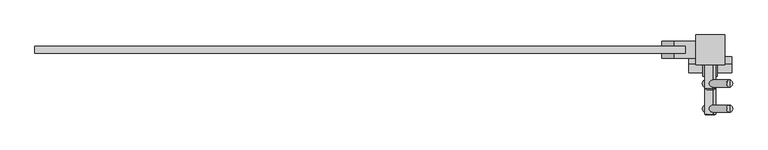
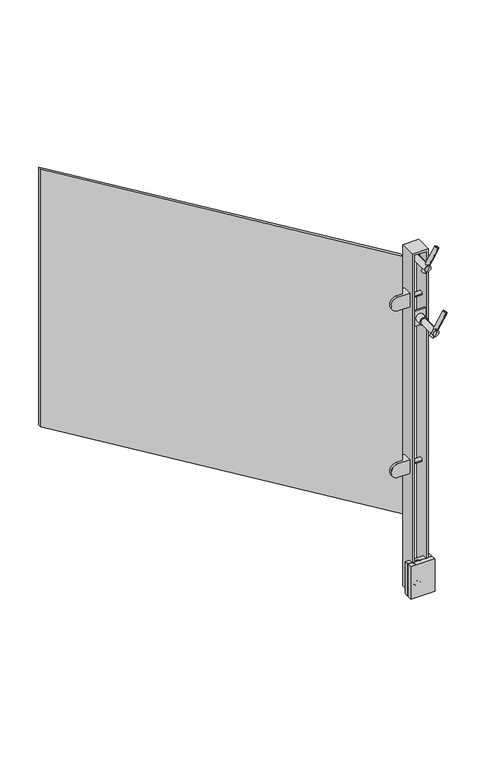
"""IFC4 building model written with IfcOpenShell, lengths in millimetres: proxy geometry, LIVERS_ICN - Glass Panel : LIVERS_ICN - Glass Panel."""

import ifcopenshell
import ifcopenshell.guid

model = None  # the IFC model being written
_history = None  # IfcOwnerHistory: only IFC2X3 demands one
_inside = {}  # id of a spatial element -> (the spatial element, [elements in it])
_under = {}  # id of a project, library or spatial element -> (it, [spatial elements below it])
_declared = {}  # id of a project -> (the project, [libraries it declares])
_typed = {}  # id of a type object -> (the type object, [elements of that type])
_made_of = {}  # id of a material, layer set ... -> (it, [elements and type objects made of it])


def new_model(schema):
    """Start an empty IFC model of exactly this schema.

    Asked for "IFC4X3", IfcOpenShell would pick the latest addendum, in which some entities
    have other attributes; the version numbers below select the first issue.
    IFC2X3 requires an IfcOwnerHistory on every rooted entity: one is made here for all.
    """
    global model, _history
    if schema == "IFC4X3":
        model = ifcopenshell.file(schema_version=(4, 3, 0, 0))
    else:
        model = ifcopenshell.file(schema=schema)
    _inside.clear()
    _under.clear()
    _declared.clear()
    _typed.clear()
    _made_of.clear()
    _history = None
    if model.schema == "IFC2X3":
        org = make("IfcOrganization", Name="unknown")
        user = make(
            "IfcPersonAndOrganization",
            ThePerson=make("IfcPerson", FamilyName="unknown"),
            TheOrganization=org,
        )
        app = make(
            "IfcApplication",
            ApplicationDeveloper=org,
            Version="unknown",
            ApplicationFullName="unknown",
            ApplicationIdentifier="unknown",
        )
        _history = make(
            "IfcOwnerHistory",
            OwningUser=user,
            OwningApplication=app,
            ChangeAction="ADDED",
            CreationDate=0,
        )
    return model


def make(cls, **values):
    """One entity of the class cls with the attributes given. An attribute that is None is left unset."""
    return model.create_entity(
        cls, **{name: value for name, value in values.items() if value is not None}
    )


def rooted(cls, **values):
    """An entity with a GlobalId (a new one), such as an element, a storey or a relation."""
    return make(cls, GlobalId=ifcopenshell.guid.new(), OwnerHistory=_history, **values)


def si_unit(unit_type, name, prefix=None):
    """IfcSIUnit, for example si_unit("LENGTHUNIT", "METRE", prefix="MILLI")."""
    return make("IfcSIUnit", UnitType=unit_type, Prefix=prefix, Name=name)


def assignment(units):
    """IfcUnitAssignment: the units of a project."""
    return None if units is None else make("IfcUnitAssignment", Units=units)


def point(xyz):
    """IfcCartesianPoint."""
    return None if xyz is None else make("IfcCartesianPoint", Coordinates=xyz)


def direction(xyz):
    """IfcDirection."""
    return None if xyz is None else make("IfcDirection", DirectionRatios=xyz)


def frame(location, z_axis=None, x_axis=None):
    """IfcAxis2Placement3D, a coordinate frame: its origin and axes. An axis left out is left unset."""
    return make(
        "IfcAxis2Placement3D",
        Location=point(location),
        Axis=direction(z_axis),
        RefDirection=direction(x_axis),
    )


def origin():
    """The frame at (0, 0, 0) with its axes left unset."""
    return frame((0.0, 0.0, 0.0))


def place(relative_to, where):
    """IfcLocalPlacement: puts the frame where relative to a parent placement (None: the world)."""
    return make(
        "IfcLocalPlacement", PlacementRelTo=relative_to, RelativePlacement=where
    )


def context(
    kind, dimensions, precision=None, world=None, true_north=None, identifier=None
):
    """IfcGeometricRepresentationContext, for example the 3D "Model" context."""
    return make(
        "IfcGeometricRepresentationContext",
        ContextIdentifier=identifier,
        ContextType=kind,
        CoordinateSpaceDimension=dimensions,
        Precision=precision,
        WorldCoordinateSystem=world,
        TrueNorth=true_north,
    )


def project(units=None, contexts=None):
    """IfcProject with its units and contexts."""
    return rooted(
        "IfcProject",
        Name="project",
        RepresentationContexts=contexts,
        UnitsInContext=assignment(units),
    )


def spatial(cls, under=None, at=None, **own):
    """A site, building, storey or space (cls), placed at a placement, below another one or the project."""
    s = rooted(cls, ObjectPlacement=at, **own)
    if under is not None:
        _under.setdefault(under.id(), (under, []))[1].append(s)
    return s


def polyline(points):
    """IfcPolyline through the points."""
    return make("IfcPolyline", Points=[point(p) for p in points])


def circle_curve(where, radius):
    """IfcCircle in the frame where."""
    return make("IfcCircle", Position=where, Radius=radius)


def ellipse_curve(where, semi_axis1, semi_axis2):
    """IfcEllipse in the frame where."""
    return make(
        "IfcEllipse", Position=where, SemiAxis1=semi_axis1, SemiAxis2=semi_axis2
    )


def trimmed(basis, trim1, trim2, sense, master):
    """IfcTrimmedCurve: the piece of a basis curve between two trims."""
    return make(
        "IfcTrimmedCurve",
        BasisCurve=basis,
        Trim1=trim1,
        Trim2=trim2,
        SenseAgreement=sense,
        MasterRepresentation=master,
    )


def outline(outer, holes=None, kind="AREA"):
    """IfcArbitraryClosedProfileDef: a profile drawn as a closed curve; with holes, ...WithVoids."""
    if holes is None:
        return make("IfcArbitraryClosedProfileDef", ProfileType=kind, OuterCurve=outer)
    return make(
        "IfcArbitraryProfileDefWithVoids",
        ProfileType=kind,
        OuterCurve=outer,
        InnerCurves=holes,
    )


def extrude(swept, where, along, depth):
    """IfcExtrudedAreaSolid: the profile swept, set in the frame where, extruded along a direction by depth."""
    return make(
        "IfcExtrudedAreaSolid",
        SweptArea=swept,
        Position=where,
        ExtrudedDirection=direction(along),
        Depth=depth,
    )


def faces_of(points, faces, orient=None, outer=None):
    """IfcFace entities. A face is a list of loops; a loop is a list of indices into points, from 0.

    orient and outer hold one flag for each loop. By default every Orientation is true, the
    first loop of a face is its IfcFaceOuterBound and the others are IfcFaceBound.
    """
    made = []
    for i, loops in enumerate(faces):
        bounds = []
        for j, loop in enumerate(loops):
            is_outer = j == 0 if outer is None else outer[i][j]
            bounds.append(
                make(
                    "IfcFaceOuterBound" if is_outer else "IfcFaceBound",
                    Bound=make("IfcPolyLoop", Polygon=[points[k] for k in loop]),
                    Orientation=True if orient is None else orient[i][j],
                )
            )
        made.append(make("IfcFace", Bounds=bounds))
    return made


def faceted_brep(points, faces, orient=None, outer=None, voids=None):
    """IfcFacetedBrep: a solid bounded by flat faces; with voids (closed shells), ...WithVoids."""
    shared = [point(p) for p in points]
    hull = make("IfcClosedShell", CfsFaces=faces_of(shared, faces, orient, outer))
    if voids is None:
        return make("IfcFacetedBrep", Outer=hull)
    return make(
        "IfcFacetedBrepWithVoids",
        Outer=hull,
        Voids=[
            make(cls, CfsFaces=faces_of(shared, fs, o, b)) for cls, fs, o, b in voids
        ],
    )


def shape(context_of_items, identifier, shape_type, items):
    """IfcShapeRepresentation: the items that make up one representation, for example the "Body"."""
    return make(
        "IfcShapeRepresentation",
        ContextOfItems=context_of_items,
        RepresentationIdentifier=identifier,
        RepresentationType=shape_type,
        Items=items,
    )


def source(mapping_origin, context_of_items, identifier, shape_type, items):
    """IfcRepresentationMap: a shape defined once, which mapped items show again and again."""
    return make(
        "IfcRepresentationMap",
        MappingOrigin=mapping_origin,
        MappedRepresentation=shape(context_of_items, identifier, shape_type, items),
    )


def transform(
    local_origin,
    x_axis=None,
    y_axis=None,
    z_axis=None,
    scale=None,
    scale2=None,
    scale3=None,
    uniform=True,
):
    """IfcCartesianTransformationOperator3D, or its non-uniform kind. x_axis, y_axis, z_axis: its Axis1, 2, 3."""
    if uniform:
        return make(
            "IfcCartesianTransformationOperator3D",
            Axis1=direction(x_axis),
            Axis2=direction(y_axis),
            LocalOrigin=point(local_origin),
            Scale=scale,
            Axis3=direction(z_axis),
        )
    return make(
        "IfcCartesianTransformationOperator3DnonUniform",
        Axis1=direction(x_axis),
        Axis2=direction(y_axis),
        LocalOrigin=point(local_origin),
        Scale=scale,
        Axis3=direction(z_axis),
        Scale2=scale2,
        Scale3=scale3,
    )


def mapped(mapping_source, mapping_target):
    """IfcMappedItem: shows the shape of a source again, moved by a transform."""
    return make(
        "IfcMappedItem", MappingSource=mapping_source, MappingTarget=mapping_target
    )


def made_of(thing, what):
    """Note that an element or type object is made of a material, layer set ...; save() writes the relation."""
    if what is not None:
        _made_of.setdefault(what.id(), (what, []))[1].append(thing)
    return thing


def element(
    cls,
    number,
    at=None,
    inside=None,
    cuts=None,
    type_object=None,
    material=None,
    context=None,
    identifier="Body",
    shape_type=None,
    held_by="IfcProductDefinitionShape",
    body=None,
    shapes=None,
    **own,
):
    """One element of the class cls, such as IfcWall. Its Tag is "e" and its number.

    at: its placement. inside: the storey or other place that contains it. cuts: it is an
    opening in that element (IfcRelVoidsElement). A single representation is given by context,
    identifier, shape_type and body (its items); several are given by shapes. held_by: the class
    of the entity that holds the representations. save() writes the other relations.
    """
    e = rooted(cls, Tag="e%d" % number, ObjectPlacement=at, **own)
    if body is not None:
        shapes = [shape(context, identifier, shape_type, body)]
    if shapes is not None:
        e.Representation = make(held_by, Representations=shapes)
    if inside is not None:
        _inside.setdefault(inside.id(), (inside, []))[1].append(e)
    if cuts is not None:
        rooted(
            "IfcRelVoidsElement", RelatingBuildingElement=cuts, RelatedOpeningElement=e
        )
    if type_object is not None:
        _typed.setdefault(type_object.id(), (type_object, []))[1].append(e)
    return made_of(e, material)


def aggregate(whole, parts):
    """IfcRelAggregates: a whole, such as a stair, and the parts it consists of."""
    return rooted("IfcRelAggregates", RelatingObject=whole, RelatedObjects=parts)


def save(model, path):
    """Write the relations noted so far, then the file.

    IfcRelAggregates (storeys below a building ...), IfcRelContainedInSpatialStructure (elements
    in a storey), IfcRelDefinesByType, IfcRelAssociatesMaterial and IfcRelDeclares: one each for
    every whole, place, type object, material and project.
    """
    for whole, parts in _under.values():
        aggregate(whole, parts)
    for where, things in _inside.values():
        rooted(
            "IfcRelContainedInSpatialStructure",
            RelatedElements=things,
            RelatingStructure=where,
        )
    for kind, things in _typed.values():
        rooted("IfcRelDefinesByType", RelatedObjects=things, RelatingType=kind)
    for what, things in _made_of.values():
        rooted("IfcRelAssociatesMaterial", RelatedObjects=things, RelatingMaterial=what)
    for by, libraries in _declared.values():
        rooted("IfcRelDeclares", RelatingContext=by, RelatedDefinitions=libraries)
    model.write(path)


def plane_surface(at):
    """IfcPlane: the flat surface through the origin of the frame at, square to its z axis."""
    return make("IfcPlane", Position=at)


def cylinder_surface(at, radius):
    """IfcCylindricalSurface: all points at the distance radius from the z axis of the frame at."""
    return make("IfcCylindricalSurface", Position=at, Radius=radius)


def revolved_surface(curve, axis_point, axis_direction):
    """IfcSurfaceOfRevolution: the curve turned about the line through axis_point along axis_direction."""
    return make(
        "IfcSurfaceOfRevolution",
        SweptCurve=make("IfcArbitraryOpenProfileDef", ProfileType="CURVE", Curve=curve),
        AxisPosition=make("IfcAxis1Placement", Location=point(axis_point), Axis=direction(axis_direction)),
    )


def advanced_brep(points, edges, surfaces, faces):
    """IfcAdvancedBrep: a solid bounded by faces that lie on surfaces and meet in shared edges.

    An edge is (start, end): straight between two places in points (the first is 0);
    or (start, end, curve); or (start, end, curve, False) where it runs against its curve.
    A face is (place in surfaces, loops), or (place, loops, False) where it looks against
    its surface's normal. A loop lists edges by number (the first is 1), with a minus sign
    where the edge is run from its end to its start. The first loop is the outer one.
    """
    corners = [point(p) for p in points]
    vertices = [make("IfcVertexPoint", VertexGeometry=c) for c in corners]
    made = []
    for start, end, *more in edges:
        made.append(
            make(
                "IfcEdgeCurve",
                EdgeStart=vertices[start],
                EdgeEnd=vertices[end],
                EdgeGeometry=more[0] if more else make("IfcPolyline", Points=[corners[start], corners[end]]),
                SameSense=more[1] if len(more) > 1 else True,
            )
        )
    hull = []
    for where, loops, *sense in faces:
        bounds = []
        for j, loop in enumerate(loops):
            ring = [make("IfcOrientedEdge", EdgeElement=made[abs(k) - 1], Orientation=k > 0) for k in loop]
            bounds.append(
                make(
                    "IfcFaceOuterBound" if j == 0 else "IfcFaceBound",
                    Bound=make("IfcEdgeLoop", EdgeList=ring),
                    Orientation=True,
                )
            )
        hull.append(make("IfcAdvancedFace", Bounds=bounds, FaceSurface=surfaces[where], SameSense=sense[0] if sense else True))
    return make("IfcAdvancedBrep", Outer=make("IfcClosedShell", CfsFaces=hull))


def building_element_proxy_05a415d2(model_context):
    return source(origin(), model_context, "Body", "SolidModel", [
        advanced_brep(
        [(1225.9299747, 60.3249609, 615.1231165), (1219.2, 60.3249609, 604.3529057), (1212.4700253, 60.3249609, 593.5826949), (1225.9299747, 38.0999609, 615.1231165), (1212.4700253, 38.0999609, 593.5826949), (1219.2, 38.0999609, 604.3529057)],
        [
            (0, 1),
            (1, 2),
            (2, 0, circle_curve(frame((1219.2, 60.3249609, 604.3529057), z_axis=(0.0, 1.0, 0.0), x_axis=(-0.5299192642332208, 0.0, -0.8480480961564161)), 12.7)),
            (0, 2, circle_curve(frame((1219.2, 60.3249609, 604.3529057), z_axis=(0.0, 1.0, 0.0), x_axis=(-0.5299192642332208, 0.0, -0.8480480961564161)), 12.7)),
            (3, 0),
            (2, 4),
            (4, 3, circle_curve(frame((1219.2, 38.0999609, 604.3529057), z_axis=(0.0, 1.0, 0.0), x_axis=(-0.5299192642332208, 0.0, -0.8480480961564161)), 12.7)),
            (3, 4, circle_curve(frame((1219.2, 38.0999609, 604.3529057), z_axis=(0.0, 1.0, 0.0), x_axis=(-0.5299192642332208, 0.0, -0.8480480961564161)), 12.7)),
            (5, 3),
            (4, 5),
        ],
        [
            plane_surface(frame((1219.2, 60.3249609, 604.3529057), z_axis=(0.0, 1.0, 0.0), x_axis=(-0.5299192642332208, 0.0, -0.8480480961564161))),
            cylinder_surface(frame((1219.2, 69.3828283, 604.3529057), z_axis=(0.0, -1.0, 0.0), x_axis=(-0.5299192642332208, 0.0, -0.8480480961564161)), 12.7),
            plane_surface(frame((1219.2, 38.0999609, 604.3529057), z_axis=(0.0, -1.0, 0.0), x_axis=(-0.5299192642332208, 0.0, -0.8480480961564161))),
        ],
        [
            (0, [[1, 2, 3]]),
            (0, [[-2, -1, 4]]),
            (1, [[5, -3, 6, 7]]),
            (1, [[-6, -4, -5, 8]]),
            (2, [[9, -7, 10]]),
            (2, [[-10, -8, -9]]),
        ],
    ),
        advanced_brep(
        [(1253.4676703, -25.4004131, 659.1926416), (1253.4676703, -19.0504161, 659.1926416), (1253.4676703, -12.7004191, 659.1926416), (1210.864245, -25.4004131, 591.0129091), (1210.864245, -12.7004191, 591.0129091), (1210.864245, -19.0504161, 591.0129091)],
        [
            (0, 1),
            (1, 2),
            (2, 0, circle_curve(frame((1253.4676703, -19.0504161, 659.1926416), z_axis=(0.5299192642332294, 0.0, 0.8480480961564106), x_axis=(0.0, 1.0, 0.0)), 6.349997)),
            (0, 2, circle_curve(frame((1253.4676703, -19.0504161, 659.1926416), z_axis=(0.5299192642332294, 0.0, 0.8480480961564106), x_axis=(0.0, 1.0, 0.0)), 6.349997)),
            (3, 0),
            (2, 4),
            (4, 3, circle_curve(frame((1210.864245, -19.0504161, 591.0129091), z_axis=(0.5299192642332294, 0.0, 0.8480480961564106), x_axis=(0.0, 1.0, 0.0)), 6.349997)),
            (3, 4, circle_curve(frame((1210.864245, -19.0504161, 591.0129091), z_axis=(0.5299192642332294, 0.0, 0.8480480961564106), x_axis=(0.0, 1.0, 0.0)), 6.349997)),
            (5, 3),
            (4, 5),
        ],
        [
            plane_surface(frame((1253.4676703, -19.0504161, 659.1926416), z_axis=(0.5299192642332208, 0.0, 0.8480480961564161), x_axis=(0.0, 1.0, 0.0))),
            cylinder_surface(frame((1260.8075857, -19.0504161, 670.9389617), z_axis=(-0.5299192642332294, 0.0, -0.8480480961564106), x_axis=(0.0, 1.0, 0.0)), 6.349997),
            plane_surface(frame((1210.864245, -19.0504161, 591.0129091), z_axis=(-0.5299192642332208, 0.0, -0.8480480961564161), x_axis=(0.0, 1.0, 0.0))),
        ],
        [
            (0, [[1, 2, 3]]),
            (0, [[-2, -1, 4]]),
            (1, [[5, -3, 6, 7]]),
            (1, [[-6, -4, -5, 8]]),
            (2, [[9, -7, 10]]),
            (2, [[-10, -8, -9]]),
        ],
    ),
        advanced_brep(
        [(1219.2, -30.1375464, 604.3529057), (1224.247481, -28.5500464, 612.4305638), (1214.152519, -28.5500464, 596.2752476), (1224.247481, 38.0999609, 612.4305638), (1219.2, 38.0999609, 604.3529057), (1214.152519, 38.0999609, 596.2752476)],
        [
            (0, 1, circle_curve(frame((1219.2, -0.7687964, 604.3529057), z_axis=(-0.8480480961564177, 0.0, 0.529919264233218), x_axis=(0.0, 1.0, 0.0)), 29.36875)),
            (1, 2, circle_curve(frame((1219.2, -28.5500464, 604.3529057), z_axis=(0.0, -1.0, 0.0), x_axis=(-0.5299192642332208, 0.0, -0.8480480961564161)), 9.525)),
            (2, 0, circle_curve(frame((1219.2, -0.7687964, 604.3529057), z_axis=(-0.8480480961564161, 0.0, 0.5299192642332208), x_axis=(0.0, 1.0, 0.0)), 29.36875)),
            (2, 1, circle_curve(frame((1219.2, -28.5500464, 604.3529057), z_axis=(0.0, -1.0, 0.0), x_axis=(-0.5299192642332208, 0.0, -0.8480480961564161)), 9.525)),
            (3, 4),
            (4, 5),
            (5, 3, circle_curve(frame((1219.2, 38.0999609, 604.3529057), z_axis=(0.0, 1.0, 0.0), x_axis=(-0.5299192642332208, 0.0, -0.8480480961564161)), 9.525)),
            (3, 5, circle_curve(frame((1219.2, 38.0999609, 604.3529057), z_axis=(0.0, 1.0, 0.0), x_axis=(-0.5299192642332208, 0.0, -0.8480480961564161)), 9.525)),
            (1, 3),
            (5, 2),
        ],
        [
            revolved_surface(trimmed(ellipse_curve(frame((1219.2, -0.7687964, 604.3529057), z_axis=(-0.8480480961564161, 0.0, 0.5299192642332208), x_axis=(0.0, 1.0, 0.0)), 29.36875, 29.36875), [point((1214.152519, -28.5500464, 596.2752476))], [point((1219.2, -30.1375464, 604.3529057))], True, "CARTESIAN"), (1219.2, 30.3031204, 604.3529057), (0.0, -1.0, 0.0)),
            plane_surface(frame((1219.2, 38.0999609, 604.3529057), z_axis=(0.0, 1.0, 0.0), x_axis=(-0.5299192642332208, 0.0, -0.8480480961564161))),
            cylinder_surface(frame((1219.2, 30.3031204, 604.3529057), z_axis=(0.0, -1.0, 0.0), x_axis=(-0.5299192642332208, 0.0, -0.8480480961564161)), 9.525),
        ],
        [
            (0, [[1, 2, 3]]),
            (0, [[-3, 4, -1]]),
            (1, [[5, 6, 7]]),
            (1, [[-6, -5, 8]]),
            (2, [[9, -7, 10, -2]]),
            (2, [[-10, -8, -9, -4]]),
        ],
    ),
        extrude(outline(polyline([(1238.25, 66.6749609), (1238.25, 60.3249609), (1200.15, 60.3249609), (1200.15, 66.6749609), (1238.25, 66.6749609)])), frame((0.0, 0.0, 578.9529057), z_axis=(0.0, 0.0, 1.0), x_axis=(1.0, 0.0, 0.0)), (0.0, 0.0, 1.0), 50.8),
        advanced_brep(
        [(1225.9299747, 15.875, 425.5915353), (1219.2, 15.875, 414.8213245), (1212.4700253, 15.875, 404.0511137), (1225.9299747, -6.35, 425.5915353), (1212.4700253, -6.35, 404.0511137), (1219.2, -6.35, 414.8213245)],
        [
            (0, 1),
            (1, 2),
            (2, 0, circle_curve(frame((1219.2, 15.875, 414.8213245), z_axis=(0.0, 1.0, 0.0), x_axis=(-0.5299192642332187, 0.0, -0.8480480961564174)), 12.7)),
            (0, 2, circle_curve(frame((1219.2, 15.875, 414.8213245), z_axis=(0.0, 1.0, 0.0), x_axis=(-0.5299192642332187, 0.0, -0.8480480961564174)), 12.7)),
            (3, 0),
            (2, 4),
            (4, 3, circle_curve(frame((1219.2, -6.35, 414.8213245), z_axis=(0.0, 1.0, 0.0), x_axis=(-0.5299192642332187, 0.0, -0.8480480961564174)), 12.7)),
            (3, 4, circle_curve(frame((1219.2, -6.35, 414.8213245), z_axis=(0.0, 1.0, 0.0), x_axis=(-0.5299192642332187, 0.0, -0.8480480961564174)), 12.7)),
            (5, 3),
            (4, 5),
        ],
        [
            plane_surface(frame((1219.2, 15.875, 414.8213245), z_axis=(0.0, 1.0, 0.0), x_axis=(-0.5299192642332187, 0.0, -0.8480480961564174))),
            cylinder_surface(frame((1219.2, 24.9328674, 414.8213245), z_axis=(0.0, -1.0, 0.0), x_axis=(-0.5299192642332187, 0.0, -0.8480480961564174)), 12.7),
            plane_surface(frame((1219.2, -6.35, 414.8213245), z_axis=(0.0, -1.0, 0.0), x_axis=(-0.5299192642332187, 0.0, -0.8480480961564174))),
        ],
        [
            (0, [[1, 2, 3]]),
            (0, [[-2, -1, 4]]),
            (1, [[5, -3, 6, 7]]),
            (1, [[-6, -4, -5, 8]]),
            (2, [[9, -7, 10]]),
            (2, [[-10, -8, -9]]),
        ],
    ),
        advanced_brep(
        [(1253.4676703, -69.850374, 469.6610605), (1253.4676703, -63.500377, 469.6610605), (1253.4676703, -57.15038, 469.6610605), (1210.864245, -69.850374, 401.4813279), (1210.864245, -57.15038, 401.4813279), (1210.864245, -63.500377, 401.4813279)],
        [
            (0, 1),
            (1, 2),
            (2, 0, circle_curve(frame((1253.4676703, -63.500377, 469.6610605), z_axis=(0.5299192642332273, 0.0, 0.848048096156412), x_axis=(0.0, 1.0, 0.0)), 6.349997)),
            (0, 2, circle_curve(frame((1253.4676703, -63.500377, 469.6610605), z_axis=(0.5299192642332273, 0.0, 0.848048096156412), x_axis=(0.0, 1.0, 0.0)), 6.349997)),
            (3, 0),
            (2, 4),
            (4, 3, circle_curve(frame((1210.864245, -63.500377, 401.4813279), z_axis=(0.5299192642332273, 0.0, 0.848048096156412), x_axis=(0.0, 1.0, 0.0)), 6.349997)),
            (3, 4, circle_curve(frame((1210.864245, -63.500377, 401.4813279), z_axis=(0.5299192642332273, 0.0, 0.848048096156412), x_axis=(0.0, 1.0, 0.0)), 6.349997)),
            (5, 3),
            (4, 5),
        ],
        [
            plane_surface(frame((1253.4676703, -63.500377, 469.6610605), z_axis=(0.5299192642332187, 0.0, 0.8480480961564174), x_axis=(0.0, 1.0, 0.0))),
            cylinder_surface(frame((1260.8075857, -63.500377, 481.4073805), z_axis=(-0.5299192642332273, 0.0, -0.848048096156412), x_axis=(0.0, 1.0, 0.0)), 6.349997),
            plane_surface(frame((1210.864245, -63.500377, 401.4813279), z_axis=(-0.5299192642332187, 0.0, -0.8480480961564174), x_axis=(0.0, 1.0, 0.0))),
        ],
        [
            (0, [[1, 2, 3]]),
            (0, [[-2, -1, 4]]),
            (1, [[5, -3, 6, 7]]),
            (1, [[-6, -4, -5, 8]]),
            (2, [[9, -7, 10]]),
            (2, [[-10, -8, -9]]),
        ],
    ),
        advanced_brep(
        [(1219.2, -74.5875073, 414.8213245), (1224.247481, -73.0000073, 422.8989826), (1214.152519, -73.0000073, 406.7436664), (1224.247481, -6.35, 422.8989826), (1219.2, -6.35, 414.8213245), (1214.152519, -6.35, 406.7436664)],
        [
            (0, 1, circle_curve(frame((1219.2, -45.2187573, 414.8213245), z_axis=(-0.8480480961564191, 0.0, 0.5299192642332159), x_axis=(0.0, 1.0, 0.0)), 29.36875)),
            (1, 2, circle_curve(frame((1219.2, -73.0000073, 414.8213245), z_axis=(0.0, -1.0, 0.0), x_axis=(-0.5299192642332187, 0.0, -0.8480480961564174)), 9.525)),
            (2, 0, circle_curve(frame((1219.2, -45.2187573, 414.8213245), z_axis=(-0.8480480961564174, 0.0, 0.5299192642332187), x_axis=(0.0, 1.0, 0.0)), 29.36875)),
            (2, 1, circle_curve(frame((1219.2, -73.0000073, 414.8213245), z_axis=(0.0, -1.0, 0.0), x_axis=(-0.5299192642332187, 0.0, -0.8480480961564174)), 9.525)),
            (3, 4),
            (4, 5),
            (5, 3, circle_curve(frame((1219.2, -6.35, 414.8213245), z_axis=(0.0, 1.0, 0.0), x_axis=(-0.5299192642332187, 0.0, -0.8480480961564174)), 9.525)),
            (3, 5, circle_curve(frame((1219.2, -6.35, 414.8213245), z_axis=(0.0, 1.0, 0.0), x_axis=(-0.5299192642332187, 0.0, -0.8480480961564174)), 9.525)),
            (1, 3),
            (5, 2),
        ],
        [
            revolved_surface(trimmed(ellipse_curve(frame((1219.2, -45.2187573, 414.8213245), z_axis=(-0.8480480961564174, 0.0, 0.5299192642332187), x_axis=(0.0, 1.0, 0.0)), 29.36875, 29.36875), [point((1214.152519, -73.0000073, 406.7436664))], [point((1219.2, -74.5875073, 414.8213245))], True, "CARTESIAN"), (1219.2, -14.1468405, 414.8213245), (0.0, -1.0, 0.0)),
            plane_surface(frame((1219.2, -6.35, 414.8213245), z_axis=(0.0, 1.0, 0.0), x_axis=(-0.5299192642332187, 0.0, -0.8480480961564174))),
            cylinder_surface(frame((1219.2, -14.1468405, 414.8213245), z_axis=(0.0, -1.0, 0.0), x_axis=(-0.5299192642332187, 0.0, -0.8480480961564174)), 9.525),
        ],
        [
            (0, [[1, 2, 3]]),
            (0, [[-3, 4, -1]]),
            (1, [[5, 6, 7]]),
            (1, [[-6, -5, 8]]),
            (2, [[9, -7, 10, -2]]),
            (2, [[-10, -8, -9, -4]]),
        ],
    ),
        extrude(outline(polyline([(1238.25, 22.225), (1238.25, 15.875), (1200.15, 15.875), (1200.15, 22.225), (1238.25, 22.225)])), frame((0.0, 0.0, 389.4213245), z_axis=(0.0, 0.0, 1.0), x_axis=(1.0, 0.0, 0.0)), (0.0, 0.0, 1.0), 50.8),
        advanced_brep(
        [(1193.8, 55.5624457, -60.6282297), (1193.8, 25.3999457, -60.6282297), (1193.8, 25.3999457, -105.0782297), (1193.8, 55.5624457, -105.0782297), (1155.598906, 55.5624457, -105.0782297), (1155.598906, 55.5624457, -60.6282297), (1155.598906, 25.3999457, -105.0782297), (1155.598906, 34.1311957, -105.0782297), (1174.9280808, 34.1311957, -105.0782297), (1174.9280808, 46.8311957, -105.0782297), (1155.598906, 46.8311957, -105.0782297), (1155.598906, 25.3999457, -60.6282297), (1155.598906, 46.8311957, -60.6282297), (1174.9280808, 46.8311957, -60.6282297), (1174.9280808, 34.1311957, -60.6282297), (1155.598906, 34.1311957, -60.6282297)],
        [
            (0, 1),
            (1, 2),
            (2, 3),
            (3, 0),
            (3, 4),
            (4, 5, circle_curve(frame((1155.598906, 55.5624457, -82.8532297), z_axis=(0.0, 1.0, 0.0), x_axis=(0.0, 0.0, -1.0)), 22.225)),
            (5, 0),
            (2, 6),
            (6, 7),
            (7, 8),
            (8, 9),
            (9, 10),
            (10, 4),
            (1, 11),
            (11, 6, circle_curve(frame((1155.598906, 25.3999457, -82.8532297), z_axis=(0.0, -1.0, 0.0), x_axis=(0.0, 0.0, -1.0)), 22.225)),
            (5, 12),
            (12, 13),
            (13, 14),
            (14, 15),
            (15, 11),
            (13, 9),
            (8, 14),
            (12, 10, circle_curve(frame((1155.598906, 46.8311957, -82.8532297), z_axis=(0.0, -1.0, 0.0), x_axis=(0.0, 0.0, -1.0)), 22.225)),
            (7, 15, circle_curve(frame((1155.598906, 34.1311957, -82.8532297), z_axis=(0.0, 1.0, 0.0), x_axis=(0.0, 0.0, -1.0)), 22.225)),
        ],
        [
            plane_surface(frame((1193.8, 55.5624457, -105.0782297), z_axis=(1.0, 0.0, 0.0), x_axis=(0.0, 0.0, 1.0))),
            plane_surface(frame((1133.2969192, 55.5624457, -60.6282297), z_axis=(0.0, 1.0, 0.0), x_axis=(1.0, 0.0, 0.0))),
            plane_surface(frame((1133.2969192, 55.5624457, -105.0782297), z_axis=(0.0, 0.0, -1.0), x_axis=(1.0, 0.0, 0.0))),
            plane_surface(frame((1133.2969192, 25.3999457, -105.0782297), z_axis=(0.0, -1.0, 0.0), x_axis=(1.0, 0.0, 0.0))),
            plane_surface(frame((1133.2969192, 25.3999457, -60.6282297), z_axis=(0.0, 0.0, 1.0), x_axis=(1.0, 0.0, 0.0))),
            plane_surface(frame((1174.9280808, 46.8311957, -105.0782297), z_axis=(-1.0, 0.0, 0.0), x_axis=(0.0, 0.0, 1.0))),
            plane_surface(frame((1133.2969192, 46.8311957, -60.6282297), z_axis=(0.0, -1.0, 0.0), x_axis=(1.0, 0.0, 0.0))),
            plane_surface(frame((1133.2969192, 34.1311957, -105.0782297), z_axis=(0.0, 1.0, 0.0), x_axis=(1.0, 0.0, 0.0))),
            cylinder_surface(frame((1155.598906, 55.5624457, -82.8532297), z_axis=(0.0, 1.0, 0.0), x_axis=(0.0, 0.0, -1.0)), 22.225),
        ],
        [
            (0, [[1, 2, 3, 4]]),
            (1, [[-4, 5, 6, 7]]),
            (2, [[-3, 8, 9, 10, 11, 12, 13, -5]]),
            (3, [[-2, 14, 15, -8]]),
            (4, [[-1, -7, 16, 17, 18, 19, 20, -14]]),
            (5, [[21, -11, 22, -18]]),
            (6, [[-21, -17, 23, -12]]),
            (7, [[-22, -10, 24, -19]]),
            (8, [[-6, -13, -23, -16]]),
            (8, [[-9, -15, -20, -24]]),
        ],
    ),
        advanced_brep(
        [(1193.8, 55.5624457, 498.1717703), (1193.8, 25.3999457, 498.1717703), (1193.8, 25.3999457, 453.7217703), (1193.8, 55.5624457, 453.7217703), (1155.598906, 55.5624457, 453.7217703), (1155.598906, 55.5624457, 498.1717703), (1155.598906, 25.3999457, 453.7217703), (1155.598906, 34.1311957, 453.7217703), (1174.9280808, 34.1311957, 453.7217703), (1174.9280808, 46.8311957, 453.7217703), (1155.598906, 46.8311957, 453.7217703), (1155.598906, 25.3999457, 498.1717703), (1155.598906, 46.8311957, 498.1717703), (1174.9280808, 46.8311957, 498.1717703), (1174.9280808, 34.1311957, 498.1717703), (1155.598906, 34.1311957, 498.1717703)],
        [
            (0, 1),
            (1, 2),
            (2, 3),
            (3, 0),
            (3, 4),
            (4, 5, circle_curve(frame((1155.598906, 55.5624457, 475.9467703), z_axis=(0.0, 1.0, 0.0), x_axis=(0.0, 0.0, -1.0)), 22.225)),
            (5, 0),
            (2, 6),
            (6, 7),
            (7, 8),
            (8, 9),
            (9, 10),
            (10, 4),
            (1, 11),
            (11, 6, circle_curve(frame((1155.598906, 25.3999457, 475.9467703), z_axis=(0.0, -1.0, 0.0), x_axis=(0.0, 0.0, -1.0)), 22.225)),
            (5, 12),
            (12, 13),
            (13, 14),
            (14, 15),
            (15, 11),
            (13, 9),
            (8, 14),
            (12, 10, circle_curve(frame((1155.598906, 46.8311957, 475.9467703), z_axis=(0.0, -1.0, 0.0), x_axis=(0.0, 0.0, -1.0)), 22.225)),
            (7, 15, circle_curve(frame((1155.598906, 34.1311957, 475.9467703), z_axis=(0.0, 1.0, 0.0), x_axis=(0.0, 0.0, -1.0)), 22.225)),
        ],
        [
            plane_surface(frame((1193.8, 55.5624457, 453.7217703), z_axis=(1.0, 0.0, 0.0), x_axis=(0.0, 0.0, 1.0))),
            plane_surface(frame((1133.2969192, 55.5624457, 498.1717703), z_axis=(0.0, 1.0, 0.0), x_axis=(1.0, 0.0, 0.0))),
            plane_surface(frame((1133.2969192, 55.5624457, 453.7217703), z_axis=(0.0, 0.0, -1.0), x_axis=(1.0, 0.0, 0.0))),
            plane_surface(frame((1133.2969192, 25.3999457, 453.7217703), z_axis=(0.0, -1.0, 0.0), x_axis=(1.0, 0.0, 0.0))),
            plane_surface(frame((1133.2969192, 25.3999457, 498.1717703), z_axis=(0.0, 0.0, 1.0), x_axis=(1.0, 0.0, 0.0))),
            plane_surface(frame((1174.9280808, 46.8311957, 453.7217703), z_axis=(-1.0, 0.0, 0.0), x_axis=(0.0, 0.0, 1.0))),
            plane_surface(frame((1133.2969192, 46.8311957, 498.1717703), z_axis=(0.0, -1.0, 0.0), x_axis=(1.0, 0.0, 0.0))),
            plane_surface(frame((1133.2969192, 34.1311957, 453.7217703), z_axis=(0.0, 1.0, 0.0), x_axis=(1.0, 0.0, 0.0))),
            cylinder_surface(frame((1155.598906, 55.5624457, 475.9467703), z_axis=(0.0, 1.0, 0.0), x_axis=(0.0, 0.0, -1.0)), 22.225),
        ],
        [
            (0, [[1, 2, 3, 4]]),
            (1, [[-4, 5, 6, 7]]),
            (2, [[-3, 8, 9, 10, 11, 12, 13, -5]]),
            (3, [[-2, 14, 15, -8]]),
            (4, [[-1, -7, 16, 17, 18, 19, 20, -14]]),
            (5, [[21, -11, 22, -18]]),
            (6, [[-21, -17, 23, -12]]),
            (7, [[-22, -10, 24, -19]]),
            (8, [[-6, -13, -23, -16]]),
            (8, [[-9, -15, -20, -24]]),
        ],
    ),
        advanced_brep(
        [(1219.2, 28.575, -499.5192631), (1219.2, 29.7562407, -499.5192631), (1219.2, 29.7562407, -477.294252), (1219.2, 28.575, -477.294252), (1219.2, 28.575, -488.4067576), (1219.2, 32.325, -494.0192631), (1219.2, 30.8816229, -488.4067576), (1219.2, 32.325, -482.794252), (1219.2, 34.8740117, -494.0192631), (1219.2, 34.8740117, -482.794252), (1219.2, 33.8500285, -496.9672695), (1219.2, 33.8500285, -479.8462456), (1219.2, 31.8562692, -498.7255454), (1219.2, 31.8562692, -478.0879697)],
        [
            (0, 1),
            (1, 2, circle_curve(frame((1219.2, 29.7562407, -488.4067576), z_axis=(0.0, -1.0, 0.0), x_axis=(0.0, 0.0, 1.0)), 11.1125056)),
            (2, 3),
            (3, 0, circle_curve(frame((1219.2, 28.575, -488.4067576), z_axis=(0.0, 1.0, 0.0), x_axis=(0.0, 0.0, 1.0)), 11.1125056)),
            (2, 1, circle_curve(frame((1219.2, 29.7562407, -488.4067576), z_axis=(0.0, -1.0, 0.0), x_axis=(0.0, 0.0, 1.0)), 11.1125056)),
            (0, 3, circle_curve(frame((1219.2, 28.575, -488.4067576), z_axis=(0.0, 1.0, 0.0), x_axis=(0.0, 0.0, 1.0)), 11.1125056)),
            (4, 0),
            (3, 4),
            (5, 6),
            (6, 7),
            (7, 5, circle_curve(frame((1219.2, 32.325, -488.4067576), z_axis=(0.0, 1.0, 0.0), x_axis=(0.0, 0.0, 1.0)), 5.6125056)),
            (5, 7, circle_curve(frame((1219.2, 32.325, -488.4067576), z_axis=(0.0, 1.0, 0.0), x_axis=(0.0, 0.0, 1.0)), 5.6125056)),
            (8, 5),
            (7, 9),
            (9, 8, circle_curve(frame((1219.2, 34.8740117, -488.4067576), z_axis=(0.0, 1.0, 0.0), x_axis=(0.0, 0.0, 1.0)), 5.6125056)),
            (8, 9, circle_curve(frame((1219.2, 34.8740117, -488.4067576), z_axis=(0.0, 1.0, 0.0), x_axis=(0.0, 0.0, 1.0)), 5.6125056)),
            (10, 8, circle_curve(frame((1219.2, 31.75, -494.5859872), z_axis=(1.0, 0.0, 0.0), x_axis=(0.0, -1.0, 0.0)), 3.175)),
            (9, 11, circle_curve(frame((1219.2, 31.75, -482.2275279), z_axis=(1.0, 0.0, 0.0), x_axis=(0.0, -1.0, 0.0)), 3.175)),
            (11, 10, circle_curve(frame((1219.2, 33.8500285, -488.4067576), z_axis=(0.0, 1.0, 0.0), x_axis=(0.0, 0.0, 1.0)), 8.560512)),
            (10, 11, circle_curve(frame((1219.2, 33.8500285, -488.4067576), z_axis=(0.0, 1.0, 0.0), x_axis=(0.0, 0.0, 1.0)), 8.560512)),
            (12, 10),
            (11, 13),
            (13, 12, circle_curve(frame((1219.2, 31.8562692, -488.4067576), z_axis=(0.0, 1.0, 0.0), x_axis=(0.0, 0.0, 1.0)), 10.3187879)),
            (12, 13, circle_curve(frame((1219.2, 31.8562692, -488.4067576), z_axis=(0.0, 1.0, 0.0), x_axis=(0.0, 0.0, 1.0)), 10.3187879)),
            (1, 12, circle_curve(frame((1219.2, 29.7562407, -496.3442631), z_axis=(1.0, 0.0, 0.0), x_axis=(0.0, -1.0, 0.0)), 3.175)),
            (13, 2, circle_curve(frame((1219.2, 29.7562407, -480.469252), z_axis=(1.0, 0.0, 0.0), x_axis=(0.0, -1.0, 0.0)), 3.175)),
        ],
        [
            cylinder_surface(frame((1219.2, 28.575, -488.4067576), z_axis=(0.0, -1.0, 0.0), x_axis=(0.0, 0.0, 1.0)), 11.1125056),
            plane_surface(frame((1219.2, 28.575, -488.4067576), z_axis=(0.0, -1.0, 0.0), x_axis=(0.0, 0.0, 1.0))),
            revolved_surface(polyline([(1219.2, 30.8816229, -488.4067576), (1219.2, 32.325, -482.794252)]), (1219.2, 28.575, -488.4067576), (0.0, -1.0, 0.0)),
            revolved_surface(polyline([(1219.2, 32.325, -482.794252), (1219.2, 34.8740117, -482.794252)]), (1219.2, 28.575, -488.4067576), (0.0, -1.0, 0.0)),
            revolved_surface(trimmed(ellipse_curve(frame((1219.2, 31.75, -482.2275279), z_axis=(1.0, 0.0, 0.0), x_axis=(0.0, -1.0, 0.0)), 3.175, 3.175), [point((1219.2, 34.8740117, -482.794252))], [point((1219.2, 33.8500285, -479.8462456))], True, "CARTESIAN"), (1219.2, 28.575, -488.4067576), (0.0, -1.0, 0.0)),
            revolved_surface(polyline([(1219.2, 33.8500285, -479.8462456), (1219.2, 31.8562692, -478.0879697)]), (1219.2, 28.575, -488.4067576), (0.0, -1.0, 0.0)),
            revolved_surface(trimmed(ellipse_curve(frame((1219.2, 29.7562407, -480.469252), z_axis=(1.0, 0.0, 0.0), x_axis=(0.0, -1.0, 0.0)), 3.175, 3.175), [point((1219.2, 31.8562692, -478.0879697))], [point((1219.2, 29.7562407, -477.294252))], True, "CARTESIAN"), (1219.2, 28.575, -488.4067576), (0.0, -1.0, 0.0)),
        ],
        [
            (0, [[1, 2, 3, 4]]),
            (0, [[-3, 5, -1, 6]]),
            (1, [[7, -4, 8]]),
            (1, [[-8, -6, -7]]),
            (2, [[9, 10, 11]]),
            (2, [[-10, -9, 12]]),
            (3, [[13, -11, 14, 15]]),
            (3, [[-14, -12, -13, 16]]),
            (4, [[17, -15, 18, 19]]),
            (4, [[-18, -16, -17, 20]]),
            (5, [[21, -19, 22, 23]]),
            (5, [[-22, -20, -21, 24]]),
            (6, [[25, -23, 26, -2]]),
            (6, [[-26, -24, -25, -5]]),
        ],
    ),
        advanced_brep(
        [(1219.2, 28.575, -429.6692631), (1219.2, 29.7562407, -429.6692631), (1219.2, 29.7562407, -407.444252), (1219.2, 28.575, -407.444252), (1219.2, 28.575, -418.5567576), (1219.2, 33.8500285, -427.1172695), (1219.2, 34.8740117, -424.1692631), (1219.2, 34.8740117, -412.944252), (1219.2, 33.8500285, -409.9962456), (1219.2, 31.8562692, -428.8755454), (1219.2, 31.8562692, -408.2379697), (1219.2, 32.325, -424.1692631), (1219.2, 30.8816229, -418.5567576), (1219.2, 32.325, -412.944252)],
        [
            (0, 1),
            (1, 2, circle_curve(frame((1219.2, 29.7562407, -418.5567576), z_axis=(0.0, -1.0, 0.0), x_axis=(0.0, 0.0, 1.0)), 11.1125056)),
            (2, 3),
            (3, 0, circle_curve(frame((1219.2, 28.575, -418.5567576), z_axis=(0.0, 1.0, 0.0), x_axis=(0.0, 0.0, 1.0)), 11.1125056)),
            (2, 1, circle_curve(frame((1219.2, 29.7562407, -418.5567576), z_axis=(0.0, -1.0, 0.0), x_axis=(0.0, 0.0, 1.0)), 11.1125056)),
            (0, 3, circle_curve(frame((1219.2, 28.575, -418.5567576), z_axis=(0.0, 1.0, 0.0), x_axis=(0.0, 0.0, 1.0)), 11.1125056)),
            (4, 0),
            (3, 4),
            (5, 6, circle_curve(frame((1219.2, 31.75, -424.7359872), z_axis=(1.0, 0.0, 0.0), x_axis=(0.0, -1.0, 0.0)), 3.175)),
            (6, 7, circle_curve(frame((1219.2, 34.8740117, -418.5567576), z_axis=(0.0, -1.0, 0.0), x_axis=(0.0, 0.0, 1.0)), 5.6125056)),
            (7, 8, circle_curve(frame((1219.2, 31.75, -412.3775279), z_axis=(1.0, 0.0, 0.0), x_axis=(0.0, -1.0, 0.0)), 3.175)),
            (8, 5, circle_curve(frame((1219.2, 33.8500285, -418.5567576), z_axis=(0.0, 1.0, 0.0), x_axis=(0.0, 0.0, 1.0)), 8.560512)),
            (7, 6, circle_curve(frame((1219.2, 34.8740117, -418.5567576), z_axis=(0.0, -1.0, 0.0), x_axis=(0.0, 0.0, 1.0)), 5.6125056)),
            (5, 8, circle_curve(frame((1219.2, 33.8500285, -418.5567576), z_axis=(0.0, 1.0, 0.0), x_axis=(0.0, 0.0, 1.0)), 8.560512)),
            (9, 5),
            (8, 10),
            (10, 9, circle_curve(frame((1219.2, 31.8562692, -418.5567576), z_axis=(0.0, 1.0, 0.0), x_axis=(0.0, 0.0, 1.0)), 10.3187879)),
            (9, 10, circle_curve(frame((1219.2, 31.8562692, -418.5567576), z_axis=(0.0, 1.0, 0.0), x_axis=(0.0, 0.0, 1.0)), 10.3187879)),
            (1, 9, circle_curve(frame((1219.2, 29.7562407, -426.4942631), z_axis=(1.0, 0.0, 0.0), x_axis=(0.0, -1.0, 0.0)), 3.175)),
            (10, 2, circle_curve(frame((1219.2, 29.7562407, -410.619252), z_axis=(1.0, 0.0, 0.0), x_axis=(0.0, -1.0, 0.0)), 3.175)),
            (11, 12),
            (12, 13),
            (13, 11, circle_curve(frame((1219.2, 32.325, -418.5567576), z_axis=(0.0, 1.0, 0.0), x_axis=(0.0, 0.0, 1.0)), 5.6125056)),
            (11, 13, circle_curve(frame((1219.2, 32.325, -418.5567576), z_axis=(0.0, 1.0, 0.0), x_axis=(0.0, 0.0, 1.0)), 5.6125056)),
            (6, 11),
            (13, 7),
        ],
        [
            cylinder_surface(frame((1219.2, 28.575, -418.5567576), z_axis=(0.0, -1.0, 0.0), x_axis=(0.0, 0.0, 1.0)), 11.1125056),
            plane_surface(frame((1219.2, 28.575, -418.5567576), z_axis=(0.0, -1.0, 0.0), x_axis=(0.0, 0.0, 1.0))),
            revolved_surface(trimmed(ellipse_curve(frame((1219.2, 31.75, -412.3775279), z_axis=(1.0, 0.0, 0.0), x_axis=(0.0, -1.0, 0.0)), 3.175, 3.175), [point((1219.2, 34.8740117, -412.944252))], [point((1219.2, 33.8500285, -409.9962456))], True, "CARTESIAN"), (1219.2, 28.575, -418.5567576), (0.0, -1.0, 0.0)),
            revolved_surface(polyline([(1219.2, 33.8500285, -409.9962456), (1219.2, 31.8562692, -408.2379697)]), (1219.2, 28.575, -418.5567576), (0.0, -1.0, 0.0)),
            revolved_surface(trimmed(ellipse_curve(frame((1219.2, 29.7562407, -410.619252), z_axis=(1.0, 0.0, 0.0), x_axis=(0.0, -1.0, 0.0)), 3.175, 3.175), [point((1219.2, 31.8562692, -408.2379697))], [point((1219.2, 29.7562407, -407.444252))], True, "CARTESIAN"), (1219.2, 28.575, -418.5567576), (0.0, -1.0, 0.0)),
            revolved_surface(polyline([(1219.2, 30.8816229, -418.5567576), (1219.2, 32.325, -412.944252)]), (1219.2, 28.575, -418.5567576), (0.0, -1.0, 0.0)),
            revolved_surface(polyline([(1219.2, 32.325, -412.944252), (1219.2, 34.8740117, -412.944252)]), (1219.2, 28.575, -418.5567576), (0.0, -1.0, 0.0)),
        ],
        [
            (0, [[1, 2, 3, 4]]),
            (0, [[-3, 5, -1, 6]]),
            (1, [[7, -4, 8]]),
            (1, [[-8, -6, -7]]),
            (2, [[9, 10, 11, 12]]),
            (2, [[-11, 13, -9, 14]]),
            (3, [[15, -12, 16, 17]]),
            (3, [[-16, -14, -15, 18]]),
            (4, [[19, -17, 20, -2]]),
            (4, [[-20, -18, -19, -5]]),
            (5, [[21, 22, 23]]),
            (5, [[-22, -21, 24]]),
            (6, [[25, -23, 26, -10]]),
            (6, [[-26, -24, -25, -13]]),
        ],
    ),
        faceted_brep([(1244.6, 14.2874305, 636.1029057), (1244.6, 14.2874305, -507.4567576), (1244.6, 15.875, -507.4567576), (1244.6, 15.875, -399.5067576), (1244.6, 28.575, -399.5067576), (1244.6, 28.575, -507.4567576), (1244.6, 66.6749609, -507.4567576), (1244.6, 66.6749609, 636.1029057), (1238.25, 66.6749609, -507.4567576), (1238.25, 28.575, -507.4567576), (1238.25, 28.575, -399.5067576), (1238.25, 15.875, -399.5067576), (1238.25, 15.875, -507.4567576), (1238.25, 14.2874305, -507.4567576), (1238.25, 14.2874305, 629.7529057), (1238.25, 66.6749609, 629.7529057), (1181.1, 28.575, -507.4567576), (1193.8, 28.575, -507.4567576), (1193.8, 66.6749609, -507.4567576), (1200.15, 66.6749609, -507.4567576), (1200.15, 28.575, -507.4567576), (1257.3, 28.575, -507.4567576), (1257.3, 15.875, -507.4567576), (1200.15, 15.875, -507.4567576), (1200.15, 14.2874305, -507.4567576), (1193.8, 14.2874305, -507.4567576), (1193.8, 15.875, -507.4567576), (1181.1, 15.875, -507.4567576), (1193.8, 14.2874305, 636.1029057), (1200.15, 14.2874305, 629.7529057), (1193.8, 66.6749609, 636.1029057), (1200.15, 66.6749609, 629.7529057), (1200.15, 15.875, -399.5067576), (1200.15, 28.575, -399.5067576), (1193.8, 28.575, -399.5067576), (1193.8, 15.875, -399.5067576), (1257.3, 28.575, -399.5067576), (1181.1, 28.575, -399.5067576), (1181.1, 15.875, -399.5067576), (1257.3, 15.875, -399.5067576)], [[[0, 1, 2, 3, 4, 5, 6, 7]], [[8, 9, 10, 11, 12, 13, 14, 15]], [[16, 17, 18, 19, 20, 9, 8, 6, 5, 21, 22, 2, 1, 13, 12, 23, 24, 25, 26, 27]], [[1, 0, 28, 25, 24, 29, 14, 13]], [[7, 30, 28, 0]], [[8, 15, 31, 19, 18, 30, 7, 6]], [[24, 23, 32, 33, 20, 19, 31, 29]], [[14, 29, 31, 15]], [[30, 18, 17, 34, 35, 26, 25, 28]], [[20, 33, 10, 9]], [[21, 5, 4, 36]], [[37, 34, 17, 16]], [[12, 11, 32, 23]], [[27, 26, 35, 38]], [[39, 3, 2, 22]], [[36, 39, 22, 21]], [[33, 32, 11, 10]], [[36, 4, 3, 39]], [[38, 35, 34, 37]], [[16, 27, 38, 37]]]),
        extrude(outline(polyline([(1257.3, 15.875), (1257.3, 0.0), (1181.1, 0.0), (1181.1, 15.875), (1257.3, 15.875)])), frame((0.0, 0.0, -507.4567576), z_axis=(0.0, 0.0, 1.0), x_axis=(1.0, 0.0, 0.0)), (0.0, 0.0, 1.0), 107.95),
        advanced_brep(
        [(1200.15, 41.2749421, -82.8532241), (1200.15, 47.5989918, -82.8532241), (1200.15, 34.9508924, -82.8532241), (1238.2639862, 47.5989918, -82.8532241), (1238.2639862, 41.2749421, -82.8532241), (1238.2639862, 34.9508924, -82.8532241)],
        [
            (0, 1),
            (1, 2, circle_curve(frame((1200.15, 41.2749421, -82.8532241), z_axis=(-1.0, 0.0, 0.0), x_axis=(0.0, -1.0, 0.0)), 6.3240497)),
            (2, 0),
            (2, 1, circle_curve(frame((1200.15, 41.2749421, -82.8532241), z_axis=(-1.0, 0.0, 0.0), x_axis=(0.0, -1.0, 0.0)), 6.3240497)),
            (3, 4),
            (4, 5),
            (5, 3, circle_curve(frame((1238.2639862, 41.2749421, -82.8532241), z_axis=(1.0, 0.0, 0.0), x_axis=(0.0, -1.0, 0.0)), 6.3240497)),
            (3, 5, circle_curve(frame((1238.2639862, 41.2749421, -82.8532241), z_axis=(1.0, 0.0, 0.0), x_axis=(0.0, -1.0, 0.0)), 6.3240497)),
            (1, 3),
            (5, 2),
        ],
        [
            plane_surface(frame((1200.15, 41.2749421, -82.8532241), z_axis=(-1.0, 0.0, 0.0), x_axis=(0.0, -1.0, 0.0))),
            plane_surface(frame((1238.2639862, 41.2749421, -82.8532241), z_axis=(1.0, 0.0, 0.0), x_axis=(0.0, -1.0, 0.0))),
            cylinder_surface(frame((1200.15, 41.2749421, -82.8532241), z_axis=(-1.0, 0.0, 0.0), x_axis=(0.0, -1.0, 0.0)), 6.3240497),
        ],
        [
            (0, [[1, 2, 3]]),
            (0, [[-3, 4, -1]]),
            (1, [[5, 6, 7]]),
            (1, [[-6, -5, 8]]),
            (2, [[9, -7, 10, -2]]),
            (2, [[-10, -8, -9, -4]]),
        ],
    ),
        advanced_brep(
        [(1200.15, 41.2749421, 475.9467759), (1200.15, 47.5989918, 475.9467759), (1200.15, 34.9508924, 475.9467759), (1238.2639862, 47.5989918, 475.9467759), (1238.2639862, 41.2749421, 475.9467759), (1238.2639862, 34.9508924, 475.9467759)],
        [
            (0, 1),
            (1, 2, circle_curve(frame((1200.15, 41.2749421, 475.9467759), z_axis=(-1.0, 0.0, 0.0), x_axis=(0.0, -1.0, 0.0)), 6.3240497)),
            (2, 0),
            (2, 1, circle_curve(frame((1200.15, 41.2749421, 475.9467759), z_axis=(-1.0, 0.0, 0.0), x_axis=(0.0, -1.0, 0.0)), 6.3240497)),
            (3, 4),
            (4, 5),
            (5, 3, circle_curve(frame((1238.2639862, 41.2749421, 475.9467759), z_axis=(1.0, 0.0, 0.0), x_axis=(0.0, -1.0, 0.0)), 6.3240497)),
            (3, 5, circle_curve(frame((1238.2639862, 41.2749421, 475.9467759), z_axis=(1.0, 0.0, 0.0), x_axis=(0.0, -1.0, 0.0)), 6.3240497)),
            (1, 3),
            (5, 2),
        ],
        [
            plane_surface(frame((1200.15, 41.2749421, 475.9467759), z_axis=(-1.0, 0.0, 0.0), x_axis=(0.0, -1.0, 0.0))),
            plane_surface(frame((1238.2639862, 41.2749421, 475.9467759), z_axis=(1.0, 0.0, 0.0), x_axis=(0.0, -1.0, 0.0))),
            cylinder_surface(frame((1200.15, 41.2749421, 475.9467759), z_axis=(-1.0, 0.0, 0.0), x_axis=(0.0, -1.0, 0.0)), 6.3240497),
        ],
        [
            (0, [[1, 2, 3]]),
            (0, [[-3, 4, -1]]),
            (1, [[5, 6, 7]]),
            (1, [[-6, -5, 8]]),
            (2, [[9, -7, 10, -2]]),
            (2, [[-10, -8, -9, -4]]),
        ],
    ),
        extrude(outline(polyline([(-239.1255639, 1174.9280808), (624.4744361, 1174.9280808), (1317.5066994, 25.639601), (453.9066994, 25.639601), (-239.1255639, 1174.9280808)])), frame((0.0, 34.1309994, 0.0), z_axis=(0.0, 1.0, 0.0), x_axis=(0.0, 0.0, 1.0)), (0.0, 0.0, 1.0), 12.7001962),
    ])


if __name__ == "__main__":
    model = new_model("IFC4")
    model_context = context("Model", 3, world=origin())
    ifc_project = project(units=[si_unit("LENGTHUNIT", "METRE", prefix="MILLI")], contexts=[model_context])
    site = spatial("IfcSite", under=ifc_project)
    building = spatial("IfcBuilding", under=site)
    placement = place(None, origin())
    building_element_proxy_shape = building_element_proxy_05a415d2(model_context)
    element("IfcBuildingElementProxy", 1, Name="LIVERS_ICN - Glass Panel : LIVERS_ICN - Glass Panel", ObjectType="LIVERS_ICN - Glass Panel : LIVERS_ICN - Glass Panel", at=placement, inside=building, context=model_context, shape_type="MappedRepresentation", body=[
        mapped(building_element_proxy_shape, transform((0.0, 0.0, 0.0), x_axis=(1.0, 0.0, 0.0), y_axis=(0.0, 1.0, 0.0), z_axis=(0.0, 0.0, 1.0))),
    ])
    save(model, "model.ifc")
